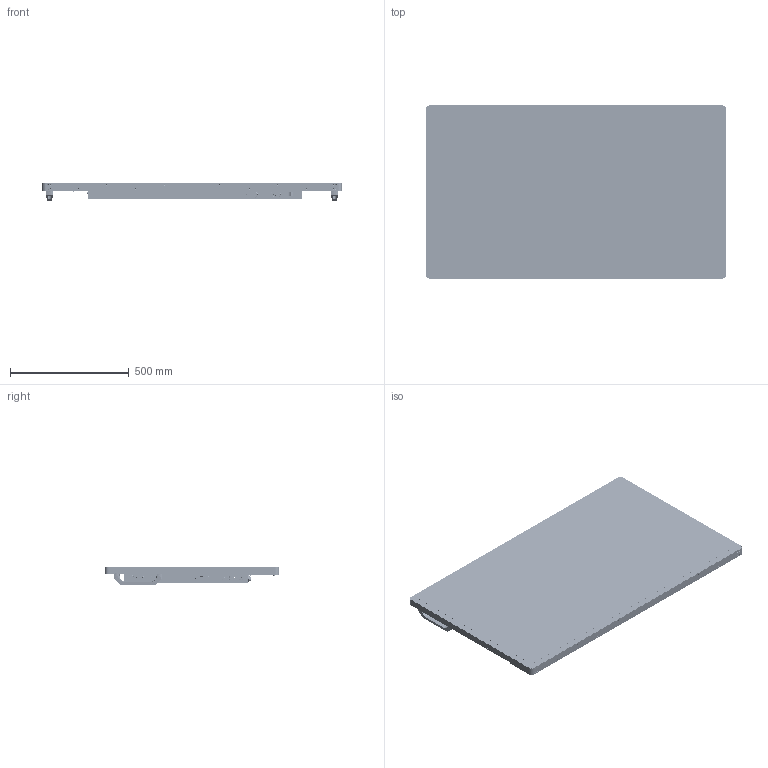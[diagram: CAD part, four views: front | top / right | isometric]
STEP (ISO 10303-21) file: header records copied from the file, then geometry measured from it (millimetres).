
FILE_DESCRIPTION (( 'STEP AP214' ), '1' );
FILE_NAME ('URP55-T.STEP', '2022-04-28T20:32:15', ( '' ), ( '' ), 'SwSTEP 2.0', 'SolidWorks 2021', '' );
FILE_SCHEMA (( 'AUTOMOTIVE_DESIGN' ));
Length unit declared in the file: millimetre
Products named in the file (1): URP55-T
Bounding box: 1263.8 x 734.2 x 78.19 mm (x, y, z)
Surface area: 6623747.5 mm2 (no closed solid volume)
Topology: 0 solids, 99 shells, 20770 faces, 58877 edges, 38828 vertices
Faces by surface type: cylinder 10940, plane 8220, bspline 1405, cone 205
Entity records: 987751 total; most frequent: CARTESIAN_POINT 190473, DIRECTION 118074, ORIENTED_EDGE 117648, EDGE_CURVE 58832, AXIS2_PLACEMENT_3D 42796, VERTEX_POINT 38826, LINE 32482, VECTOR 32482
